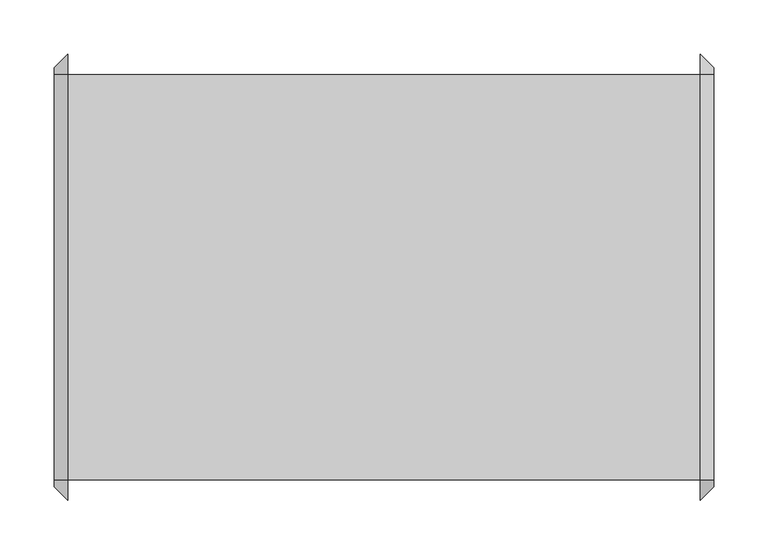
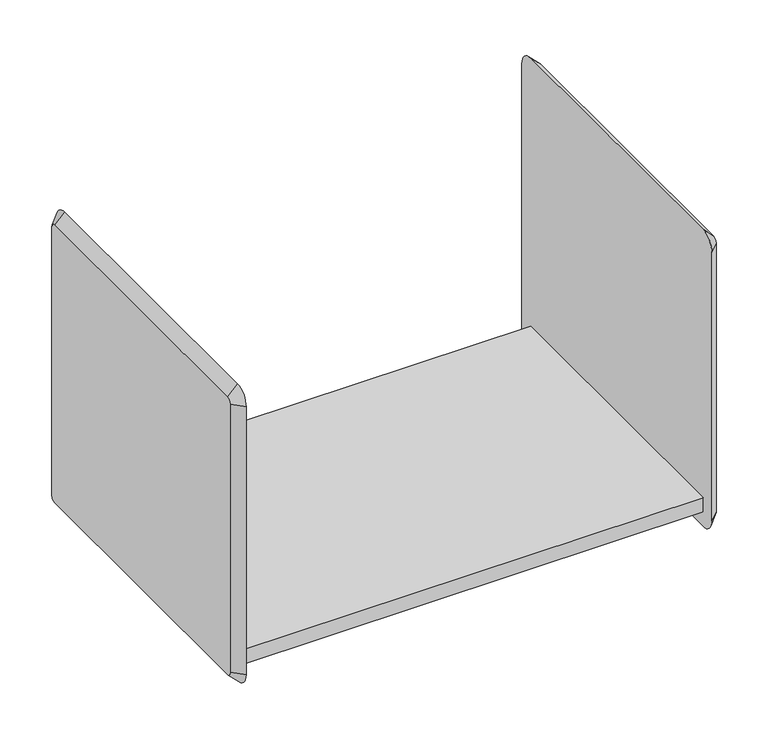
"""IFC4 building model written with IfcOpenShell, lengths in millimetres: furniture geometry, HermanMiller_ActionOffice_A3210_B-StyleShelf : 15-1/2H 16D 24W."""

from ifc_helpers import new_model, si_unit, frame, origin, place, context, project, spatial, polyline, circle_curve, outline, extrude, source, transform, mapped, element, save
from ifc_brep_helpers import plane_surface, revolved_surface, advanced_brep


def furniture_88821f83(model_context):
    return source(origin(), model_context, "Body", "SolidModel", [
        extrude(outline(polyline([(168.1579955, 200.025), (168.1579955, 196.85), (-416.0420045, 196.85), (-416.0420045, 200.025), (168.1579955, 200.025)])), frame((0.0, 0.0, 1686.3753713), z_axis=(0.0, 0.0, 1.0), x_axis=(1.0, 0.0, 0.0)), (0.0, 0.0, 1.0), 15.9097687),
        extrude(outline(polyline([(-174.625, 1705.46014), (200.025, 1705.46014), (200.025, 1702.28514), (-171.45, 1702.28514), (-171.45, 1686.3753713), (-174.625, 1686.3753713), (-174.625, 1705.46014)])), frame((-416.0420045, 0.0, 0.0), z_axis=(1.0, 0.0, 0.0), x_axis=(0.0, 1.0, 0.0)), (0.0, 0.0, 1.0), 584.2),
        advanced_brep(
        [(180.8579955, 200.025, 2048.36014), (180.8579955, -174.625, 2048.36014), (180.8579955, -180.975, 2042.01014), (180.8579955, -180.975, 1686.41014), (180.8579955, -174.625, 1680.06014), (180.8579955, 200.025, 1680.06014), (180.8579955, 206.375, 1686.41014), (180.8579955, 206.375, 2042.01014), (168.1579955, 200.025, 2061.06014), (168.1579955, 219.075, 2042.01014), (168.1579955, 219.075, 1686.41014), (168.1579955, 200.025, 1667.36014), (168.1579955, -174.625, 1667.36014), (168.1579955, -193.675, 1686.41014), (168.1579955, -193.675, 2042.01014), (168.1579955, -174.625, 2061.06014)],
        [
            (0, 1),
            (1, 2, circle_curve(frame((180.8579955, -174.625, 2042.01014), z_axis=(1.0, 0.0, 0.0), x_axis=(0.0, 0.0, 1.0)), 6.35)),
            (2, 3),
            (3, 4, circle_curve(frame((180.8579955, -174.625, 1686.41014), z_axis=(1.0, 0.0, 0.0), x_axis=(0.0, -1.0, 0.0)), 6.35)),
            (4, 5),
            (5, 6, circle_curve(frame((180.8579955, 200.025, 1686.41014), z_axis=(1.0, 0.0, 0.0), x_axis=(0.0, 0.0, -1.0)), 6.35)),
            (6, 7),
            (7, 0, circle_curve(frame((180.8579955, 200.025, 2042.01014), z_axis=(1.0, 0.0, 0.0), x_axis=(0.0, 1.0, 0.0)), 6.35)),
            (8, 9, circle_curve(frame((168.1579955, 200.025, 2042.01014), z_axis=(-1.0, 0.0, 0.0), x_axis=(0.0, 1.0, 0.0)), 19.05)),
            (9, 10),
            (10, 11, circle_curve(frame((168.1579955, 200.025, 1686.41014), z_axis=(-1.0, 0.0, 0.0), x_axis=(0.0, 0.0, -1.0)), 19.05)),
            (11, 12),
            (12, 13, circle_curve(frame((168.1579955, -174.625, 1686.41014), z_axis=(-1.0, 0.0, 0.0), x_axis=(0.0, -1.0, 0.0)), 19.05)),
            (13, 14),
            (14, 15, circle_curve(frame((168.1579955, -174.625, 2042.01014), z_axis=(-1.0, 0.0, 0.0), x_axis=(0.0, 0.0, 1.0)), 19.05)),
            (15, 8),
            (15, 1),
            (0, 8),
            (14, 2),
            (13, 3),
            (12, 4),
            (11, 5),
            (10, 6),
            (9, 7),
        ],
        [
            plane_surface(frame((180.8579955, 12.7, 1864.21014), z_axis=(1.0, 0.0, 0.0), x_axis=(0.0, -1.0, 0.0))),
            plane_surface(frame((168.1579955, 12.7, 1864.21014), z_axis=(-1.0, 0.0, 0.0), x_axis=(0.0, -1.0, 0.0))),
            plane_surface(frame((168.1579955, 12.7, 2061.06014), z_axis=(0.7071067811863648, 0.0, 0.7071067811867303), x_axis=(0.0, -1.0, 0.0))),
            revolved_surface(polyline([(180.8579955, -174.625, 2048.3601400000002), (168.1579955, -174.625, 2061.06014)]), (187.2079955, -174.625, 2042.01014), (-1.0, 0.0, 0.0)),
            plane_surface(frame((168.1579955, -193.675, 1864.21014), z_axis=(0.7071067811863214, -0.7071067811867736, 0.0), x_axis=(0.0, 0.0, -1.0))),
            revolved_surface(polyline([(180.8579955, -180.97500000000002, 1686.41014), (168.1579955, -193.675, 1686.41014)]), (187.2079955, -174.625, 1686.41014), (-1.0, 0.0, 0.0)),
            plane_surface(frame((168.1579955, 12.7, 1667.36014), z_axis=(0.707106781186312, 0.0, -0.707106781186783), x_axis=(0.0, 1.0, 0.0))),
            revolved_surface(polyline([(180.8579955, 200.025, 1680.06014), (168.1579955, 200.025, 1667.36014)]), (187.2079955, 200.025, 1686.41014), (-1.0, 0.0, 0.0)),
            plane_surface(frame((168.1579955, 219.075, 1864.21014), z_axis=(0.7071067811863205, 0.7071067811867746, 0.0), x_axis=(0.0, 0.0, 1.0))),
            revolved_surface(polyline([(180.8579955, 206.37500000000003, 2042.01014), (168.1579955, 219.075, 2042.01014)]), (187.2079955, 200.025, 2042.01014), (-1.0, 0.0, 0.0)),
        ],
        [
            (0, [[1, 2, 3, 4, 5, 6, 7, 8]]),
            (1, [[9, 10, 11, 12, 13, 14, 15, 16]]),
            (2, [[-16, 17, -1, 18]]),
            (3, [[-15, 19, -2, -17]]),
            (4, [[-14, 20, -3, -19]]),
            (5, [[-13, 21, -4, -20]]),
            (6, [[-12, 22, -5, -21]]),
            (7, [[-11, 23, -6, -22]]),
            (8, [[-10, 24, -7, -23]]),
            (9, [[-9, -18, -8, -24]]),
        ],
    ),
        advanced_brep(
        [(-428.7420045, -174.625, 2048.36014), (-428.7420045, 200.025, 2048.36014), (-428.7420045, 206.375, 2042.01014), (-428.7420045, 206.375, 1686.41014), (-428.7420045, 200.025, 1680.06014), (-428.7420045, -174.625, 1680.06014), (-428.7420045, -180.975, 1686.41014), (-428.7420045, -180.975, 2042.01014), (-416.0420045, -174.625, 2061.06014), (-416.0420045, -193.675, 2042.01014), (-416.0420045, -193.675, 1686.41014), (-416.0420045, -174.625, 1667.36014), (-416.0420045, 200.025, 1667.36014), (-416.0420045, 219.075, 1686.41014), (-416.0420045, 219.075, 2042.01014), (-416.0420045, 200.025, 2061.06014)],
        [
            (0, 1),
            (1, 2, circle_curve(frame((-428.7420045, 200.025, 2042.01014), z_axis=(-1.0, -1.8838264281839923e-12, -1.790567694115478e-12), x_axis=(-1.7905334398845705e-12, 0.0, 1.0)), 6.35)),
            (2, 3),
            (3, 4, circle_curve(frame((-428.7420045, 200.025, 1686.41014), z_axis=(-1.0, 0.0, 0.0), x_axis=(0.0, 1.0, 0.0)), 6.35)),
            (4, 5),
            (5, 6, circle_curve(frame((-428.7420045, -174.625, 1686.41014), z_axis=(-1.0, 0.0, 0.0), x_axis=(0.0, 0.0, -1.0)), 6.35)),
            (6, 7),
            (7, 0, circle_curve(frame((-428.7420045, -174.625, 2042.01014), z_axis=(-1.0, -1.875832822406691e-12, 1.9824142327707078e-12), x_axis=(1.8757894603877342e-12, -1.0, 0.0)), 6.35)),
            (8, 9, circle_curve(frame((-416.0420045, -174.625, 2042.01014), z_axis=(1.0, 1.875832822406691e-12, -1.9824142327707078e-12), x_axis=(1.8757894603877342e-12, -1.0, 0.0)), 19.05)),
            (9, 10),
            (10, 11, circle_curve(frame((-416.0420045, -174.625, 1686.41014), z_axis=(1.0, 0.0, 0.0), x_axis=(0.0, 0.0, -1.0)), 19.05)),
            (11, 12),
            (12, 13, circle_curve(frame((-416.0420045, 200.025, 1686.41014), z_axis=(1.0, 0.0, 0.0), x_axis=(0.0, 1.0, 0.0)), 19.05)),
            (13, 14),
            (14, 15, circle_curve(frame((-416.0420045, 200.025, 2042.01014), z_axis=(1.0, 1.8838264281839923e-12, 1.790567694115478e-12), x_axis=(-1.7905334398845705e-12, 0.0, 1.0)), 19.05)),
            (15, 8),
            (15, 1),
            (0, 8),
            (14, 2),
            (13, 3),
            (12, 4),
            (11, 5),
            (10, 6),
            (9, 7),
        ],
        [
            plane_surface(frame((-428.7420045, 12.7, 1864.21014), z_axis=(-1.0, 0.0, 0.0), x_axis=(0.0, -1.0, 0.0))),
            plane_surface(frame((-416.0420045, 12.7, 1864.21014), z_axis=(1.0, 0.0, 0.0), x_axis=(0.0, -1.0, 0.0))),
            plane_surface(frame((-416.0420045, 12.7, 2061.06014), z_axis=(-0.7071067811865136, 0.0, 0.7071067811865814), x_axis=(0.0, 1.0, 0.0))),
            revolved_surface(polyline([(-428.7420045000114, 200.025, 2048.360139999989), (-416.04200449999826, 200.025, 2061.060140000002)]), (-435.0920045, 200.025, 2042.01014), (1.0, 1.8838264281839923e-12, 1.790567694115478e-12)),
            plane_surface(frame((-416.0420045, 219.075, 1864.21014), z_axis=(-0.7071067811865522, 0.7071067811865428, 0.0), x_axis=(0.0, 0.0, -1.0))),
            revolved_surface(polyline([(-428.7420045, 206.37499999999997, 1686.41014), (-416.0420045, 219.075, 1686.41014)]), (-435.0920045, 200.025, 1686.41014), (1.0, 0.0, 0.0)),
            plane_surface(frame((-416.0420045, 12.7, 1667.36014), z_axis=(-0.7071067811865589, 0.0, -0.7071067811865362), x_axis=(0.0, -1.0, 0.0))),
            revolved_surface(polyline([(-428.7420045, -174.625, 1680.06014), (-416.0420045, -174.625, 1667.36014)]), (-435.0920045, -174.625, 1686.41014), (1.0, 0.0, 0.0)),
            plane_surface(frame((-416.0420045, -193.675, 1864.21014), z_axis=(-0.7071067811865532, -0.7071067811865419, 0.0), x_axis=(0.0, 0.0, 1.0))),
            revolved_surface(polyline([(-428.7420045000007, -180.9749999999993, 2042.01014), (-416.04200449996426, -193.67500000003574, 2042.01014)]), (-435.0920045, -174.625, 2042.01014), (1.0, 1.875832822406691e-12, -1.9824142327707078e-12)),
        ],
        [
            (0, [[1, 2, 3, 4, 5, 6, 7, 8]]),
            (1, [[9, 10, 11, 12, 13, 14, 15, 16]]),
            (2, [[-16, 17, -1, 18]]),
            (3, [[-15, 19, -2, -17]]),
            (4, [[-14, 20, -3, -19]]),
            (5, [[-13, 21, -4, -20]]),
            (6, [[-12, 22, -5, -21]]),
            (7, [[-11, 23, -6, -22]]),
            (8, [[-10, 24, -7, -23]]),
            (9, [[-9, -18, -8, -24]]),
        ],
    ),
    ])


if __name__ == "__main__":
    model = new_model("IFC4")
    model_context = context("Model", 3, world=origin())
    ifc_project = project(units=[si_unit("LENGTHUNIT", "METRE", prefix="MILLI")], contexts=[model_context])
    site = spatial("IfcSite", under=ifc_project)
    building = spatial("IfcBuilding", under=site)
    placement = place(None, origin())
    furniture_shape = furniture_88821f83(model_context)
    element("IfcFurniture", 1, ObjectType="HermanMiller_ActionOffice_A3210_B-StyleShelf : 15-1/2H 16D 24W", at=placement, inside=building, context=model_context, shape_type="MappedRepresentation", body=[
        mapped(furniture_shape, transform((0.0, 0.0, 0.0), x_axis=(1.0, 0.0, 0.0), y_axis=(0.0, 1.0, 0.0), z_axis=(0.0, 0.0, 1.0))),
    ])
    save(model, "model.ifc")
